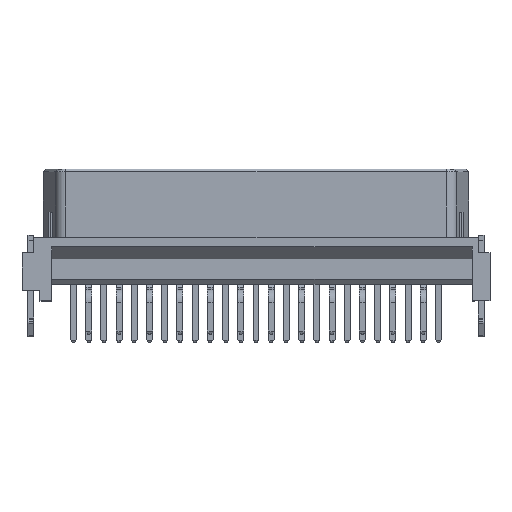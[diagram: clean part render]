
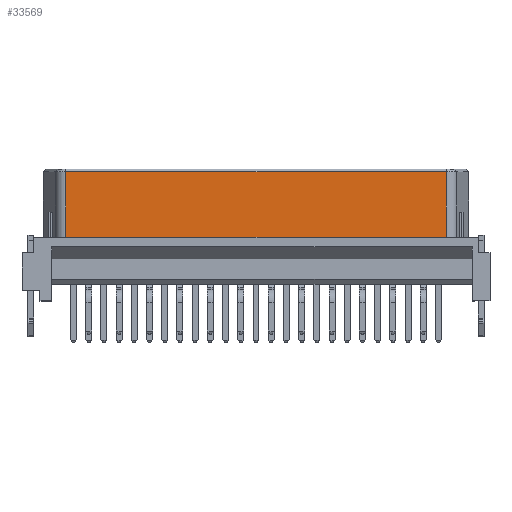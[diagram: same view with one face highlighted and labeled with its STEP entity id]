
A CAD part, top view. The second image highlights one B-rep face of the part: STEP entity #33569.
In plain terms, the highlighted planar face has unit normal (0, 0, 1).
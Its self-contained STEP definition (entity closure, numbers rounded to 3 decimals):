
#551 = DIRECTION ( 'NONE',  ( -1., 0., 0. ) ) ;
#5163 = ORIENTED_EDGE ( 'NONE', *, *, #25928, .F. ) ;
#6059 = CARTESIAN_POINT ( 'NONE',  ( 15.879, 5.5, 2.74 ) ) ;
#8040 = ORIENTED_EDGE ( 'NONE', *, *, #47488, .T. ) ;
#10039 = CARTESIAN_POINT ( 'NONE',  ( -15.879, 5.7, 2.74 ) ) ;
#15795 = DIRECTION ( 'NONE',  ( 0., -1., 0. ) ) ;
#21747 = CARTESIAN_POINT ( 'NONE',  ( -15.879, 0., 2.74 ) ) ;
#22649 = CARTESIAN_POINT ( 'NONE',  ( -15.879, 0., 2.74 ) ) ;
#24596 = VECTOR ( 'NONE', #66312, 1000. ) ;
#25928 = EDGE_CURVE ( 'NONE', #41020, #64883, #62415, .T. ) ;
#27278 = DIRECTION ( 'NONE',  ( 1., 0., 0. ) ) ;
#27312 = ORIENTED_EDGE ( 'NONE', *, *, #44442, .T. ) ;
#30870 = LINE ( 'NONE', #43824, #24596 ) ;
#32438 = DIRECTION ( 'NONE',  ( 0., -1., 0. ) ) ;
#33569 = ADVANCED_FACE ( 'NONE', ( #41502 ), #35475, .F. ) ;
#34728 = DIRECTION ( 'NONE',  ( 0., 0., -1. ) ) ;
#34966 = CARTESIAN_POINT ( 'NONE',  ( -15.879, 5.7, 2.74 ) ) ;
#35475 = PLANE ( 'NONE',  #58721 ) ;
#37893 = CARTESIAN_POINT ( 'NONE',  ( 15.879, 5.7, 2.74 ) ) ;
#40251 = LINE ( 'NONE', #21747, #48226 ) ;
#41020 = VERTEX_POINT ( 'NONE', #6059 ) ;
#41274 = LINE ( 'NONE', #10039, #70784 ) ;
#41502 = FACE_OUTER_BOUND ( 'NONE', #50863, .T. ) ;
#43824 = CARTESIAN_POINT ( 'NONE',  ( -15.879, 5.5, 2.74 ) ) ;
#44442 = EDGE_CURVE ( 'NONE', #65398, #64883, #40251, .T. ) ;
#44901 = CARTESIAN_POINT ( 'NONE',  ( 15.879, 0., 2.74 ) ) ;
#47488 = EDGE_CURVE ( 'NONE', #41020, #51372, #30870, .T. ) ;
#48226 = VECTOR ( 'NONE', #27278, 1000. ) ;
#50863 = EDGE_LOOP ( 'NONE', ( #5163, #8040, #59310, #27312 ) ) ;
#51234 = CARTESIAN_POINT ( 'NONE',  ( -15.879, 5.5, 2.74 ) ) ;
#51372 = VERTEX_POINT ( 'NONE', #51234 ) ;
#56985 = VECTOR ( 'NONE', #32438, 1000. ) ;
#58721 = AXIS2_PLACEMENT_3D ( 'NONE', #34966, #34728, #551 ) ;
#59310 = ORIENTED_EDGE ( 'NONE', *, *, #68631, .T. ) ;
#62415 = LINE ( 'NONE', #37893, #56985 ) ;
#64883 = VERTEX_POINT ( 'NONE', #44901 ) ;
#65398 = VERTEX_POINT ( 'NONE', #22649 ) ;
#66312 = DIRECTION ( 'NONE',  ( -1., 0., 0. ) ) ;
#68631 = EDGE_CURVE ( 'NONE', #51372, #65398, #41274, .T. ) ;
#70784 = VECTOR ( 'NONE', #15795, 1000. ) ;
